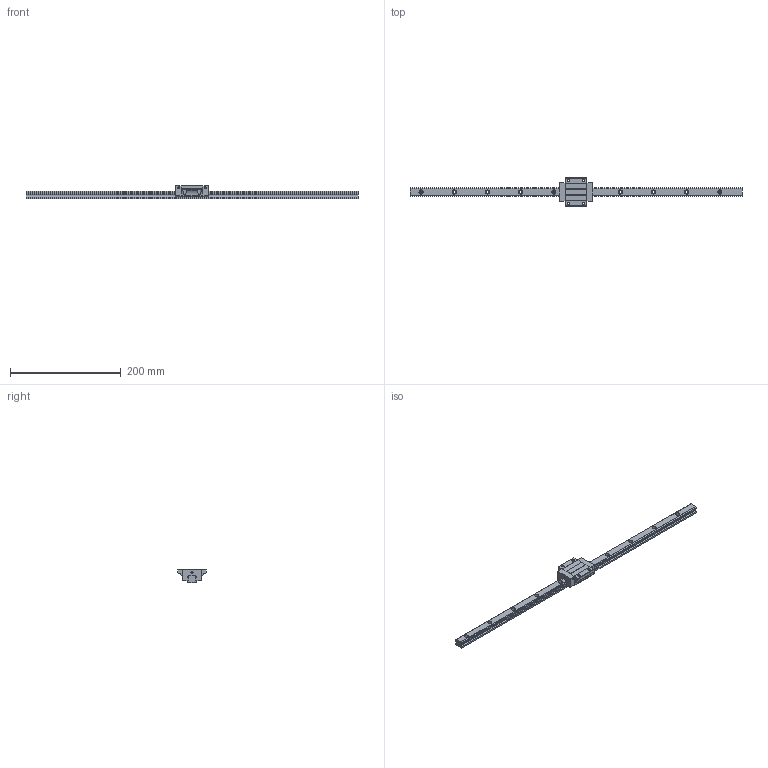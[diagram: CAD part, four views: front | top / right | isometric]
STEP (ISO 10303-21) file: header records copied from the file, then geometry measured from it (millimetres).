
FILE_DESCRIPTION (( 'STEP AP203' ), '1' );
FILE_NAME ('TRS15FN-SU.STEP', '2024-07-10T09:28:06', ( '' ), ( '' ), 'SwSTEP 2.0', 'SolidWorks 2022', '' );
FILE_SCHEMA (( 'CONFIG_CONTROL_DESIGN' ));
Length unit declared in the file: millimetre
Products named in the file (1): TRS15FN-SU
Bounding box: 600 x 52 x 24 mm (x, y, z)
Volume: 139293.3 mm3; surface area: 48281.7 mm2
Topology: 2 solids, 2 shells, 238 faces, 638 edges, 416 vertices
Faces by surface type: cylinder 130, plane 104, sphere 4
Entity records: 8103 total; most frequent: CARTESIAN_POINT 1891, DIRECTION 1306, ORIENTED_EDGE 1268, EDGE_CURVE 634, AXIS2_PLACEMENT_3D 467, VERTEX_POINT 416, LINE 372, VECTOR 372
